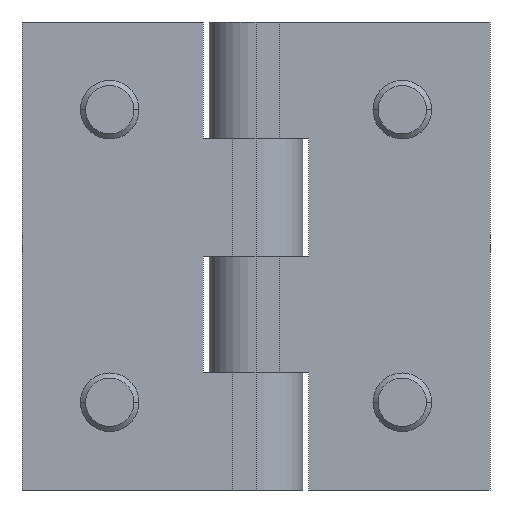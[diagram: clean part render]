
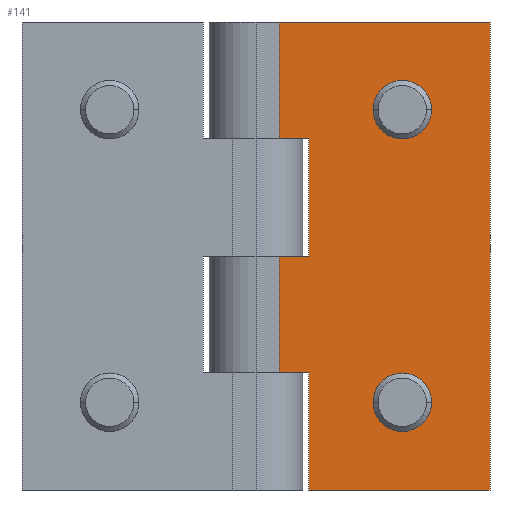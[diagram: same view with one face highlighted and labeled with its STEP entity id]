
A CAD part, front view. The second image highlights one B-rep face of the part: STEP entity #141.
In plain terms, the highlighted planar face has unit normal (0, -1, 0).
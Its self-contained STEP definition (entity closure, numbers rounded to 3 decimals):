
#141=ADVANCED_FACE('',(#245,#246,#247),#248,.T.);
#245=FACE_BOUND('',#422,.T.);
#246=FACE_BOUND('',#423,.T.);
#247=FACE_OUTER_BOUND('',#424,.T.);
#248=PLANE('',#425);
#422=EDGE_LOOP('',(#699,#700));
#423=EDGE_LOOP('',(#701,#702));
#424=EDGE_LOOP('',(#703,#704,#705,#706,#707,#708,#709,#710,#711,#712));
#425=AXIS2_PLACEMENT_3D('',#713,#714,#715);
#699=ORIENTED_EDGE('',*,*,#1250,.T.);
#700=ORIENTED_EDGE('',*,*,#1265,.T.);
#701=ORIENTED_EDGE('',*,*,#1243,.T.);
#702=ORIENTED_EDGE('',*,*,#1268,.T.);
#703=ORIENTED_EDGE('',*,*,#1272,.T.);
#704=ORIENTED_EDGE('',*,*,#1293,.T.);
#705=ORIENTED_EDGE('',*,*,#1290,.T.);
#706=ORIENTED_EDGE('',*,*,#1294,.F.);
#707=ORIENTED_EDGE('',*,*,#1295,.T.);
#708=ORIENTED_EDGE('',*,*,#1296,.T.);
#709=ORIENTED_EDGE('',*,*,#1297,.T.);
#710=ORIENTED_EDGE('',*,*,#1298,.T.);
#711=ORIENTED_EDGE('',*,*,#1299,.T.);
#712=ORIENTED_EDGE('',*,*,#1300,.F.);
#713=CARTESIAN_POINT('',(20.0,0.0,0.0));
#714=DIRECTION('',(0.0,-1.0,0.0));
#715=DIRECTION('',(1.0,0.0,0.0));
#1243=EDGE_CURVE('',#1462,#1460,#1463,.T.);
#1250=EDGE_CURVE('',#1475,#1473,#1476,.T.);
#1265=EDGE_CURVE('',#1473,#1475,#1499,.T.);
#1268=EDGE_CURVE('',#1460,#1462,#1502,.T.);
#1272=EDGE_CURVE('',#1509,#1507,#1510,.T.);
#1290=EDGE_CURVE('',#1545,#1543,#1546,.T.);
#1293=EDGE_CURVE('',#1507,#1545,#1549,.T.);
#1294=EDGE_CURVE('',#1550,#1543,#1551,.T.);
#1295=EDGE_CURVE('',#1550,#1552,#1553,.T.);
#1296=EDGE_CURVE('',#1552,#1554,#1555,.T.);
#1297=EDGE_CURVE('',#1554,#1556,#1557,.T.);
#1298=EDGE_CURVE('',#1556,#1558,#1559,.T.);
#1299=EDGE_CURVE('',#1558,#1560,#1561,.T.);
#1300=EDGE_CURVE('',#1509,#1560,#1562,.T.);
#1460=VERTEX_POINT('',#1816);
#1462=VERTEX_POINT('',#1819);
#1463=CIRCLE('',#1820,2.5);
#1473=VERTEX_POINT('',#1833);
#1475=VERTEX_POINT('',#1836);
#1476=CIRCLE('',#1837,2.5);
#1499=CIRCLE('',#1865,2.5);
#1502=CIRCLE('',#1868,2.5);
#1507=VERTEX_POINT('',#1874);
#1509=VERTEX_POINT('',#1877);
#1510=LINE('',#1878,#1879);
#1543=VERTEX_POINT('',#1926);
#1545=VERTEX_POINT('',#1929);
#1546=LINE('',#1930,#1931);
#1549=LINE('',#1936,#1937);
#1550=VERTEX_POINT('',#1938);
#1551=LINE('',#1939,#1940);
#1552=VERTEX_POINT('',#1941);
#1553=LINE('',#1942,#1943);
#1554=VERTEX_POINT('',#1944);
#1555=LINE('',#1945,#1946);
#1556=VERTEX_POINT('',#1947);
#1557=LINE('',#1948,#1949);
#1558=VERTEX_POINT('',#1950);
#1559=LINE('',#1951,#1952);
#1560=VERTEX_POINT('',#1953);
#1561=LINE('',#1954,#1955);
#1562=LINE('',#1956,#1957);
#1816=CARTESIAN_POINT('',(10.0,0.0,7.5));
#1819=CARTESIAN_POINT('',(15.0,0.,7.5));
#1820=AXIS2_PLACEMENT_3D('',#2335,#2336,#2337);
#1833=CARTESIAN_POINT('',(10.0,0.,32.5));
#1836=CARTESIAN_POINT('',(15.0,0.,32.5));
#1837=AXIS2_PLACEMENT_3D('',#2348,#2349,#2350);
#1865=AXIS2_PLACEMENT_3D('',#2383,#2384,#2385);
#1868=AXIS2_PLACEMENT_3D('',#2392,#2393,#2394);
#1874=CARTESIAN_POINT('',(4.5,0.0,30.0));
#1877=CARTESIAN_POINT('',(2.0,0.0,30.0));
#1878=CARTESIAN_POINT('',(7.25,0.0,30.0));
#1879=VECTOR('',#2400,1.0);
#1926=CARTESIAN_POINT('',(2.0,0.0,20.0));
#1929=CARTESIAN_POINT('',(4.5,0.0,20.0));
#1930=CARTESIAN_POINT('',(7.25,0.0,20.0));
#1931=VECTOR('',#2422,1.0);
#1936=CARTESIAN_POINT('',(4.5,0.0,12.5));
#1937=VECTOR('',#2425,1.0);
#1938=CARTESIAN_POINT('',(2.0,0.0,10.0));
#1939=CARTESIAN_POINT('',(2.0,0.0,0.0));
#1940=VECTOR('',#2426,1.0);
#1941=CARTESIAN_POINT('',(4.5,0.0,10.0));
#1942=CARTESIAN_POINT('',(7.25,0.0,10.0));
#1943=VECTOR('',#2427,1.0);
#1944=CARTESIAN_POINT('',(4.5,0.0,0.0));
#1945=CARTESIAN_POINT('',(4.5,0.0,2.5));
#1946=VECTOR('',#2428,1.0);
#1947=CARTESIAN_POINT('',(20.0,0.0,0.0));
#1948=CARTESIAN_POINT('',(2.0,0.0,0.0));
#1949=VECTOR('',#2429,1.0);
#1950=CARTESIAN_POINT('',(20.0,0.0,40.0));
#1951=CARTESIAN_POINT('',(20.0,0.0,0.0));
#1952=VECTOR('',#2430,1.0);
#1953=CARTESIAN_POINT('',(2.0,0.0,40.0));
#1954=CARTESIAN_POINT('',(2.0,0.0,40.0));
#1955=VECTOR('',#2431,1.0);
#1956=CARTESIAN_POINT('',(2.0,0.0,0.0));
#1957=VECTOR('',#2432,1.0);
#2335=CARTESIAN_POINT('',(12.5,0.0,7.5));
#2336=DIRECTION('',(0.0,1.0,0.0));
#2337=DIRECTION('',(-1.0,0.0,0.));
#2348=CARTESIAN_POINT('',(12.5,0.,32.5));
#2349=DIRECTION('',(0.0,1.0,0.0));
#2350=DIRECTION('',(-1.0,0.0,0.));
#2383=CARTESIAN_POINT('',(12.5,0.,32.5));
#2384=DIRECTION('',(0.0,1.0,0.0));
#2385=DIRECTION('',(-1.0,0.0,0.));
#2392=CARTESIAN_POINT('',(12.5,0.0,7.5));
#2393=DIRECTION('',(0.0,1.0,0.0));
#2394=DIRECTION('',(-1.0,0.0,0.));
#2400=DIRECTION('',(1.0,0.0,0.0));
#2422=DIRECTION('',(-1.0,0.0,0.0));
#2425=DIRECTION('',(0.0,0.0,-1.0));
#2426=DIRECTION('',(0.0,0.0,1.0));
#2427=DIRECTION('',(1.0,0.0,0.0));
#2428=DIRECTION('',(0.0,0.0,-1.0));
#2429=DIRECTION('',(1.0,0.0,0.0));
#2430=DIRECTION('',(0.0,0.0,1.0));
#2431=DIRECTION('',(-1.0,0.0,0.0));
#2432=DIRECTION('',(0.0,0.0,1.0));
